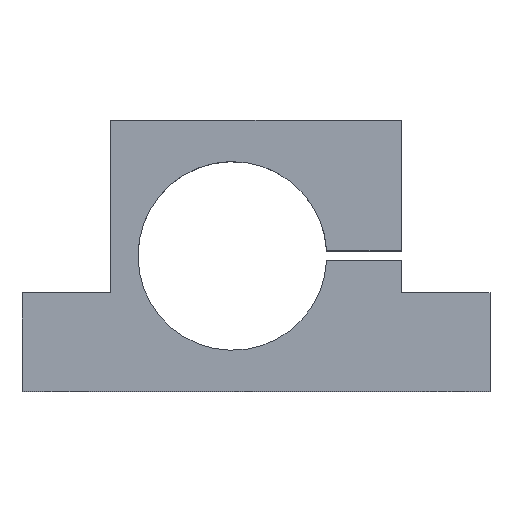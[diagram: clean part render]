
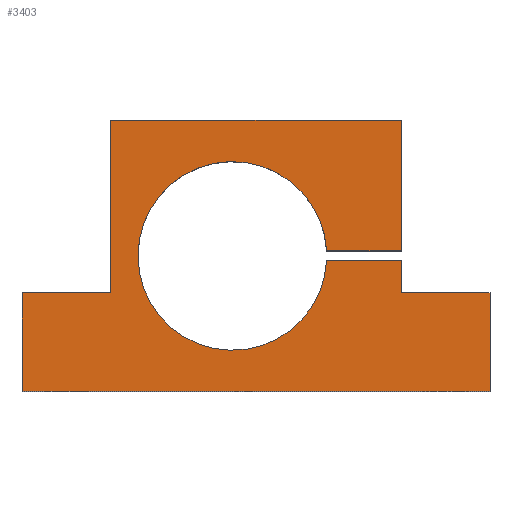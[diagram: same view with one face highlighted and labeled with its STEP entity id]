
A CAD part, top view. The second image highlights one B-rep face of the part: STEP entity #3403.
In plain terms, the highlighted planar face has unit normal (0, 0, 1).
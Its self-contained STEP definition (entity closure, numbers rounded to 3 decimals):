
#40=CIRCLE('',#3527,19.15);
#154=PLANE('',#3539);
#336=FACE_OUTER_BOUND('',#542,.T.);
#542=EDGE_LOOP('',(#3125,#3126,#3127,#3128,#3129,#3130,#3131,#3132,#3133,
#3134,#3135,#3136));
#809=LINE('',#6070,#1114);
#830=LINE('',#6157,#1135);
#832=LINE('',#6161,#1137);
#834=LINE('',#6165,#1139);
#836=LINE('',#6169,#1141);
#838=LINE('',#6173,#1143);
#840=LINE('',#6177,#1145);
#842=LINE('',#6181,#1147);
#844=LINE('',#6184,#1149);
#845=LINE('',#6188,#1150);
#847=LINE('',#6191,#1152);
#1114=VECTOR('',#3950,10.);
#1135=VECTOR('',#4039,10.);
#1137=VECTOR('',#4043,10.);
#1139=VECTOR('',#4047,10.);
#1141=VECTOR('',#4051,10.);
#1143=VECTOR('',#4055,10.);
#1145=VECTOR('',#4059,10.);
#1147=VECTOR('',#4063,10.);
#1149=VECTOR('',#4067,10.);
#1150=VECTOR('',#4072,10.);
#1152=VECTOR('',#4076,10.);
#1614=VERTEX_POINT('',#6067);
#1615=VERTEX_POINT('',#6069);
#1645=VERTEX_POINT('',#6150);
#1646=VERTEX_POINT('',#6152);
#1647=VERTEX_POINT('',#6156);
#1648=VERTEX_POINT('',#6160);
#1649=VERTEX_POINT('',#6164);
#1650=VERTEX_POINT('',#6168);
#1651=VERTEX_POINT('',#6172);
#1652=VERTEX_POINT('',#6176);
#1653=VERTEX_POINT('',#6180);
#1654=VERTEX_POINT('',#6187);
#2091=EDGE_CURVE('',#1615,#1614,#809,.T.);
#2129=EDGE_CURVE('',#1646,#1645,#40,.T.);
#2131=EDGE_CURVE('',#1647,#1646,#830,.T.);
#2133=EDGE_CURVE('',#1648,#1647,#832,.T.);
#2135=EDGE_CURVE('',#1649,#1648,#834,.T.);
#2137=EDGE_CURVE('',#1650,#1649,#836,.T.);
#2139=EDGE_CURVE('',#1651,#1650,#838,.T.);
#2141=EDGE_CURVE('',#1652,#1651,#840,.T.);
#2143=EDGE_CURVE('',#1653,#1652,#842,.T.);
#2145=EDGE_CURVE('',#1614,#1653,#844,.T.);
#2146=EDGE_CURVE('',#1654,#1615,#845,.T.);
#2148=EDGE_CURVE('',#1645,#1654,#847,.T.);
#3125=ORIENTED_EDGE('',*,*,#2148,.T.);
#3126=ORIENTED_EDGE('',*,*,#2146,.T.);
#3127=ORIENTED_EDGE('',*,*,#2091,.T.);
#3128=ORIENTED_EDGE('',*,*,#2145,.T.);
#3129=ORIENTED_EDGE('',*,*,#2143,.T.);
#3130=ORIENTED_EDGE('',*,*,#2141,.T.);
#3131=ORIENTED_EDGE('',*,*,#2139,.T.);
#3132=ORIENTED_EDGE('',*,*,#2137,.T.);
#3133=ORIENTED_EDGE('',*,*,#2135,.T.);
#3134=ORIENTED_EDGE('',*,*,#2133,.T.);
#3135=ORIENTED_EDGE('',*,*,#2131,.T.);
#3136=ORIENTED_EDGE('',*,*,#2129,.T.);
#3403=ADVANCED_FACE('',(#336),#154,.T.);
#3527=AXIS2_PLACEMENT_3D('',#6153,#4034,#4035);
#3539=AXIS2_PLACEMENT_3D('',#6192,#4077,#4078);
#3950=DIRECTION('',(-1.,0.,0.));
#4034=DIRECTION('center_axis',(0.,0.,-1.));
#4035=DIRECTION('ref_axis',(-0.999,-0.052,0.));
#4039=DIRECTION('',(-1.,0.,0.));
#4043=DIRECTION('',(0.,1.,0.));
#4047=DIRECTION('',(-1.,0.,0.));
#4051=DIRECTION('',(0.,1.,0.));
#4055=DIRECTION('',(1.,0.,0.));
#4059=DIRECTION('',(0.,-1.,0.));
#4063=DIRECTION('',(-1.,0.,0.));
#4067=DIRECTION('',(0.,-1.,0.));
#4072=DIRECTION('',(0.,1.,0.));
#4076=DIRECTION('',(1.,0.,0.));
#4077=DIRECTION('center_axis',(0.,0.,1.));
#4078=DIRECTION('ref_axis',(1.,0.,0.));
#6067=CARTESIAN_POINT('',(18.,55.,10.));
#6069=CARTESIAN_POINT('',(77.,55.,10.));
#6070=CARTESIAN_POINT('',(77.,55.,10.));
#6150=CARTESIAN_POINT('',(61.824,28.5,10.));
#6152=CARTESIAN_POINT('',(61.824,26.5,10.));
#6153=CARTESIAN_POINT('Origin',(42.7,27.5,10.));
#6156=CARTESIAN_POINT('',(77.,26.5,10.));
#6157=CARTESIAN_POINT('',(77.,26.5,10.));
#6160=CARTESIAN_POINT('',(77.,20.,10.));
#6161=CARTESIAN_POINT('',(77.,20.,10.));
#6164=CARTESIAN_POINT('',(95.,20.,10.));
#6165=CARTESIAN_POINT('',(95.,20.,10.));
#6168=CARTESIAN_POINT('',(95.,0.,10.));
#6169=CARTESIAN_POINT('',(95.,0.,10.));
#6172=CARTESIAN_POINT('',(0.,0.,10.));
#6173=CARTESIAN_POINT('',(0.,0.,10.));
#6176=CARTESIAN_POINT('',(0.,20.,10.));
#6177=CARTESIAN_POINT('',(0.,20.,10.));
#6180=CARTESIAN_POINT('',(18.,20.,10.));
#6181=CARTESIAN_POINT('',(18.,20.,10.));
#6184=CARTESIAN_POINT('',(18.,55.,10.));
#6187=CARTESIAN_POINT('',(77.,28.5,10.));
#6188=CARTESIAN_POINT('',(77.,28.5,10.));
#6191=CARTESIAN_POINT('',(61.824,28.5,10.));
#6192=CARTESIAN_POINT('Origin',(47.863,24.479,10.));
